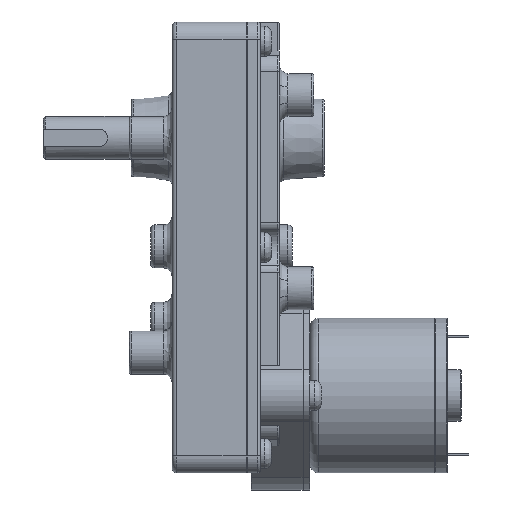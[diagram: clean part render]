
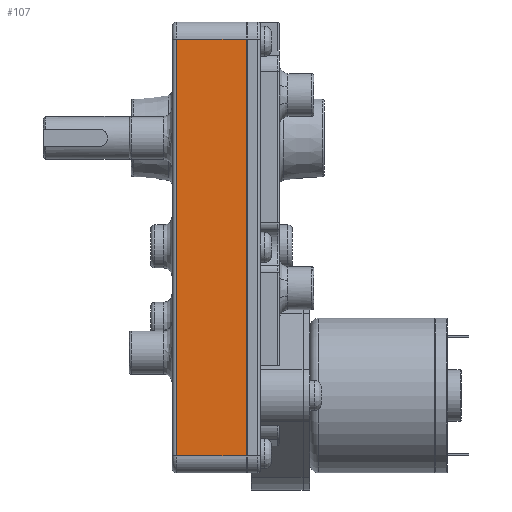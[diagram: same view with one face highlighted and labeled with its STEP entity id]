
A CAD part, left-side view. The second image highlights one B-rep face of the part: STEP entity #107.
In plain terms, the highlighted planar face has unit normal (-1, 0, 0).
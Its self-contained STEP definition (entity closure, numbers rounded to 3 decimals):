
#68=CARTESIAN_POINT('',(-37.5,4.,54.499));
#69=DIRECTION('',(-1.0,0.0,0.0));
#70=DIRECTION('',(0.0,0.0,1.0));
#71=AXIS2_PLACEMENT_3D('',#68,#69,#70);
#72=PLANE('',#71);
#73=CARTESIAN_POINT('',(-37.5,20.5,-46.501));
#74=VERTEX_POINT('',#73);
#75=CARTESIAN_POINT('',(-37.5,20.5,50.499));
#76=VERTEX_POINT('',#75);
#77=CARTESIAN_POINT('',(-37.5,20.5,-46.501));
#78=DIRECTION('',(0.0,0.0,1.0));
#79=VECTOR('',#78,97.);
#80=LINE('',#77,#79);
#81=EDGE_CURVE('',#74,#76,#80,.T.);
#82=ORIENTED_EDGE('',*,*,#81,.F.);
#83=CARTESIAN_POINT('',(-37.5,4.2,-46.501));
#84=VERTEX_POINT('',#83);
#85=CARTESIAN_POINT('',(-37.5,4.2,-46.501));
#86=DIRECTION('',(0.0,1.0,0.0));
#87=VECTOR('',#86,16.3);
#88=LINE('',#85,#87);
#89=EDGE_CURVE('',#84,#74,#88,.T.);
#90=ORIENTED_EDGE('',*,*,#89,.F.);
#91=CARTESIAN_POINT('',(-37.5,4.2,50.499));
#92=VERTEX_POINT('',#91);
#93=CARTESIAN_POINT('',(-37.5,4.2,-46.501));
#94=DIRECTION('',(0.0,0.0,1.0));
#95=VECTOR('',#94,97.0);
#96=LINE('',#93,#95);
#97=EDGE_CURVE('',#84,#92,#96,.T.);
#98=ORIENTED_EDGE('',*,*,#97,.T.);
#99=CARTESIAN_POINT('',(-37.5,20.5,50.499));
#100=DIRECTION('',(0.0,-1.0,0.0));
#101=VECTOR('',#100,16.3);
#102=LINE('',#99,#101);
#103=EDGE_CURVE('',#76,#92,#102,.T.);
#104=ORIENTED_EDGE('',*,*,#103,.F.);
#105=EDGE_LOOP('',(#82,#90,#98,#104));
#106=FACE_OUTER_BOUND('',#105,.T.);
#107=ADVANCED_FACE('',(#106),#72,.T.);
